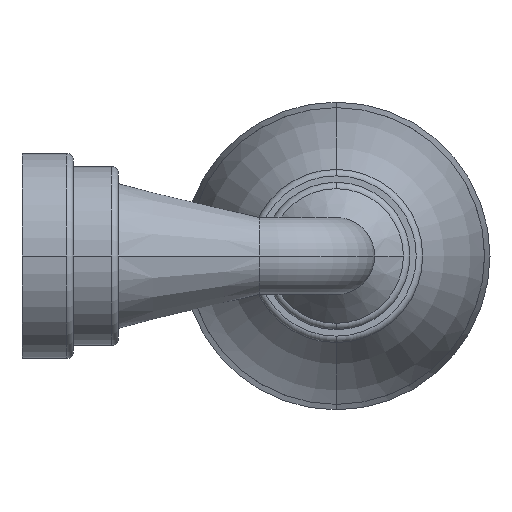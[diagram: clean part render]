
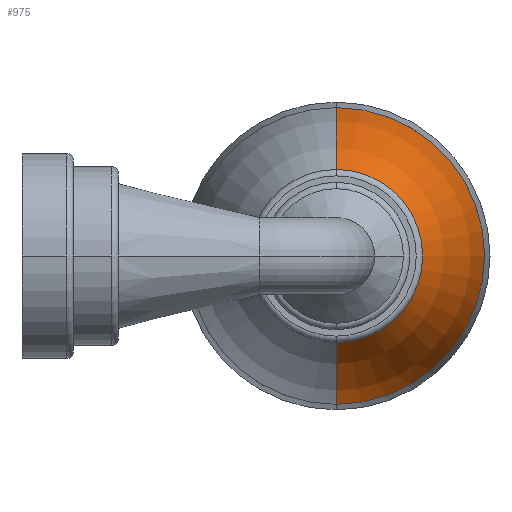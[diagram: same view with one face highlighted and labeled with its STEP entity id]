
A CAD part, left-side view. The second image highlights one B-rep face of the part: STEP entity #975.
In plain terms, the highlighted toroidal (fillet/blend) face has major radius 22.576 mm and minor radius 34.335 mm.
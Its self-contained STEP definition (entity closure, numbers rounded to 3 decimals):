
#663 = EDGE_CURVE( '', #1171, #1013, #1640, .T. );
#677 = VERTEX_POINT( '', #1655 );
#701 = VERTEX_POINT( '', #1685 );
#779 = EDGE_CURVE( '', #1013, #1429, #1773, .T. );
#975 = ADVANCED_FACE( '', ( #1989 ), #1990, .T. );
#1013 = VERTEX_POINT( '', #2032 );
#1159 = EDGE_CURVE( '', #1429, #1383, #2197, .T. );
#1171 = VERTEX_POINT( '', #2212 );
#1299 = EDGE_CURVE( '', #701, #1171, #2350, .T. );
#1383 = VERTEX_POINT( '', #2445 );
#1387 = EDGE_CURVE( '', #677, #1383, #2449, .T. );
#1427 = EDGE_CURVE( '', #701, #677, #2494, .T. );
#1429 = VERTEX_POINT( '', #2496 );
#1640 = CIRCLE( '', #2752, 5.441 );
#1655 = CARTESIAN_POINT( '', ( 29.291, -36.074, 0. ) );
#1685 = CARTESIAN_POINT( '', ( 29.291, -24.5, 11.574 ) );
#1773 = CIRCLE( '', #2914, 5.441 );
#1989 = FACE_OUTER_BOUND( '', #3181, .T. );
#1990 = TOROIDAL_SURFACE( '', #3182, -22.576, 34.335 );
#2032 = CARTESIAN_POINT( '', ( 13., -29.941, 0. ) );
#2197 = CIRCLE( '', #3445, 34.335 );
#2212 = CARTESIAN_POINT( '', ( 13., -24.5, 5.441 ) );
#2350 = CIRCLE( '', #3632, 34.335 );
#2445 = CARTESIAN_POINT( '', ( 29.291, -24.5, -11.574 ) );
#2449 = CIRCLE( '', #3753, 11.574 );
#2494 = CIRCLE( '', #3809, 11.574 );
#2496 = CARTESIAN_POINT( '', ( 13., -24.5, -5.441 ) );
#2752 = AXIS2_PLACEMENT_3D( '', #4036, #4037, #4038 );
#2914 = AXIS2_PLACEMENT_3D( '', #4247, #4248, #4249 );
#3181 = EDGE_LOOP( '', ( #4537, #4538, #4539, #4540, #4541, #4542 ) );
#3182 = AXIS2_PLACEMENT_3D( '', #4543, #4544, #4545 );
#3445 = AXIS2_PLACEMENT_3D( '', #4859, #4860, #4861 );
#3632 = AXIS2_PLACEMENT_3D( '', #5069, #5070, #5071 );
#3753 = AXIS2_PLACEMENT_3D( '', #5208, #5209, #5210 );
#3809 = AXIS2_PLACEMENT_3D( '', #5276, #5277, #5278 );
#4036 = CARTESIAN_POINT( '', ( 13., -24.5, 0. ) );
#4037 = DIRECTION( '', ( 1., 0., 0. ) );
#4038 = DIRECTION( '', ( 0., -1., 0. ) );
#4247 = CARTESIAN_POINT( '', ( 13., -24.5, 0. ) );
#4248 = DIRECTION( '', ( 1., 0., 0. ) );
#4249 = DIRECTION( '', ( 0., -1., 0. ) );
#4537 = ORIENTED_EDGE( '', *, *, #1159, .T. );
#4538 = ORIENTED_EDGE( '', *, *, #1387, .F. );
#4539 = ORIENTED_EDGE( '', *, *, #1427, .F. );
#4540 = ORIENTED_EDGE( '', *, *, #1299, .T. );
#4541 = ORIENTED_EDGE( '', *, *, #663, .T. );
#4542 = ORIENTED_EDGE( '', *, *, #779, .T. );
#4543 = CARTESIAN_POINT( '', ( 32.846, -24.5, 0. ) );
#4544 = DIRECTION( '', ( 1., 0., 0. ) );
#4545 = DIRECTION( '', ( 0., 0., -1. ) );
#4859 = CARTESIAN_POINT( '', ( 32.846, -24.5, 22.576 ) );
#4860 = DIRECTION( '', ( 0., -1., 0. ) );
#4861 = DIRECTION( '', ( 0., 0., -1. ) );
#5069 = CARTESIAN_POINT( '', ( 32.846, -24.5, -22.576 ) );
#5070 = DIRECTION( '', ( 0., -1., 0. ) );
#5071 = DIRECTION( '', ( 0., 0., 1. ) );
#5208 = CARTESIAN_POINT( '', ( 29.291, -24.5, 0. ) );
#5209 = DIRECTION( '', ( 1., 0., 0. ) );
#5210 = DIRECTION( '', ( 0., -1., 0. ) );
#5276 = CARTESIAN_POINT( '', ( 29.291, -24.5, 0. ) );
#5277 = DIRECTION( '', ( 1., 0., 0. ) );
#5278 = DIRECTION( '', ( 0., -1., 0. ) );
